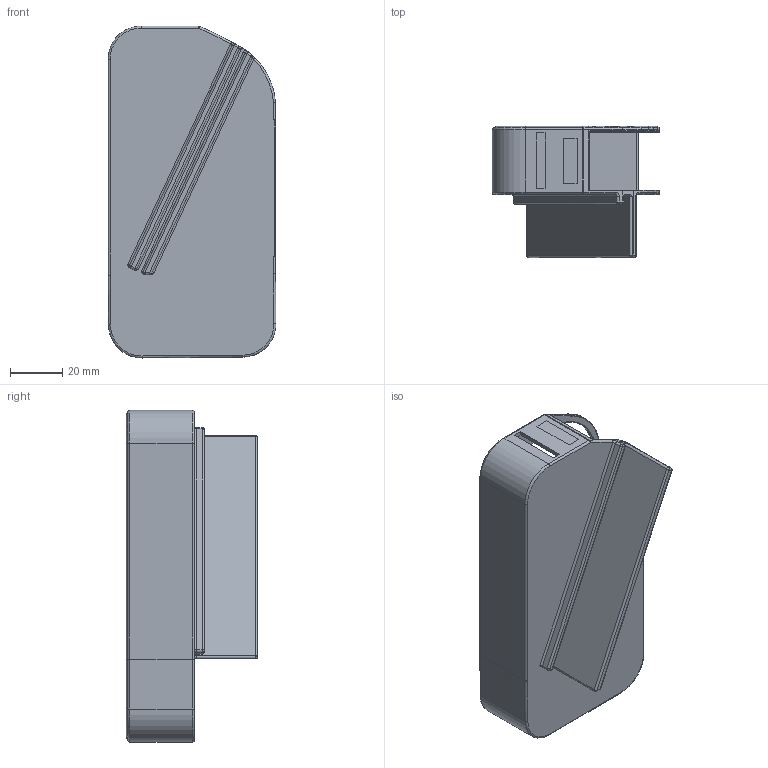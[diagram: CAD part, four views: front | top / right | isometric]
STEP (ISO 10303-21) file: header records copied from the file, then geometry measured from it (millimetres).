
FILE_DESCRIPTION(/* description */ ('Unknown'),/* implementation_level */ '2;1');
FILE_NAME(/* name */ 'heat diffuser 1.4',/* time_stamp */ '2025-01-27T22:17:18-06:00',/* author */ ('Unknown'),/* organization */ ('Unknown'),/* preprocessor_version */ 'ST-DEVELOPER v19.4',/* originating_system */ 'Solid Edge',/* authorisation */ 'Unknown');
FILE_SCHEMA (('AUTOMOTIVE_DESIGN {1 0 10303 214 3 1 1}'));
Length unit declared in the file: millimetre
Products named in the file (1): heat diffuser 1.4
Bounding box: 64.06 x 50.04 x 126.68 mm (x, y, z)
Volume: 38916.9 mm3; surface area: 41922.4 mm2
Topology: 1 solids, 2 shells, 160 faces, 397 edges, 226 vertices
Faces by surface type: cylinder 58, plane 52, torus 34, sphere 13, bspline 3
Full cylindrical faces by diameter (mm): 48.059 x1
Entity records: 4683 total; most frequent: CARTESIAN_POINT 925, DIRECTION 826, ORIENTED_EDGE 754, EDGE_CURVE 377, AXIS2_PLACEMENT_3D 320, VERTEX_POINT 225, LINE 186, VECTOR 186
